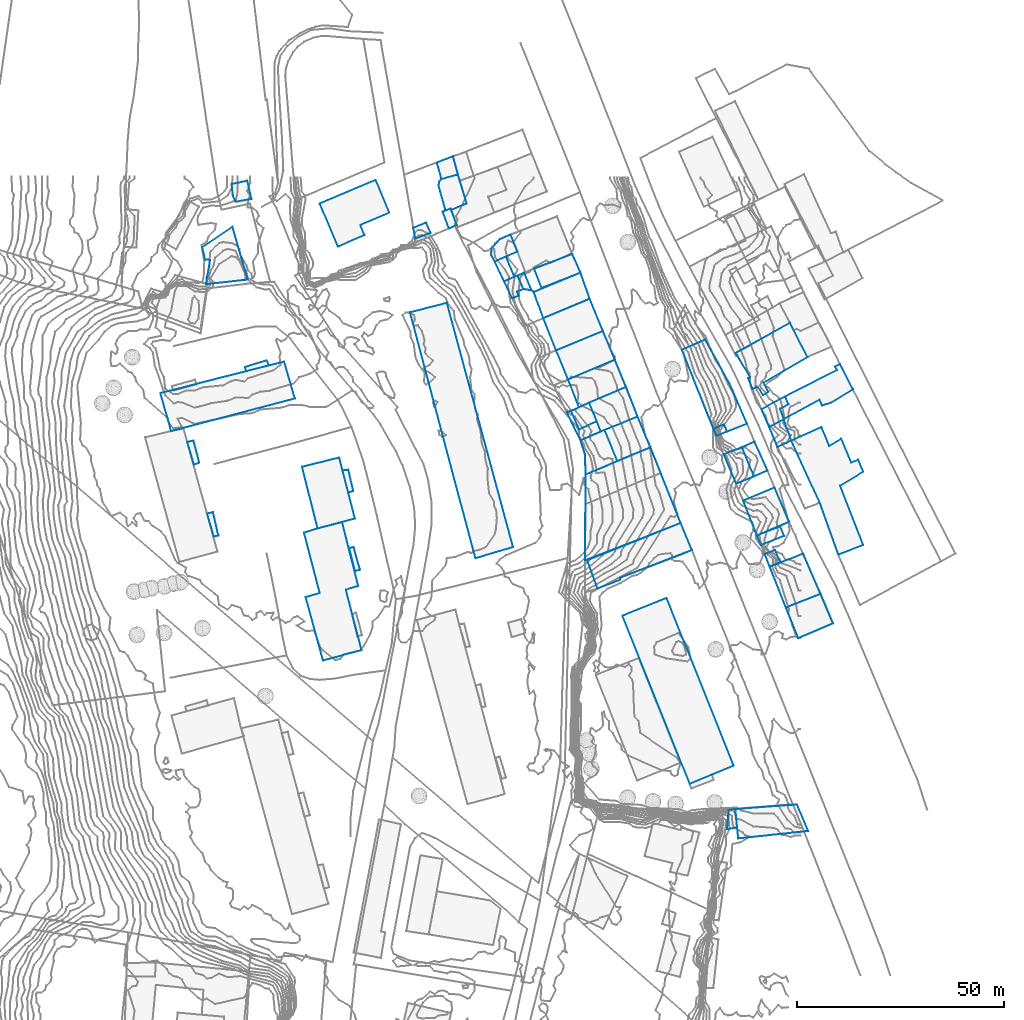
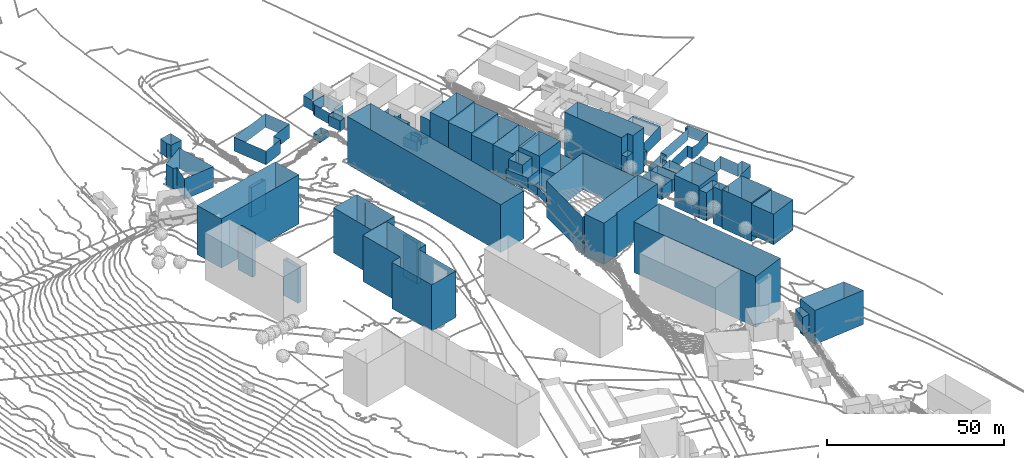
# Not in any storey, part 69 of 419: 49 walls.
"""IFC2X3 model written with IfcOpenShell, lengths in metres."""

from ifc_helpers import new_model, si_unit, frame, origin_with_axes, place, context, subcontext, project, faceted_brep, element, save


model = new_model("IFC2X3")

# Units and contexts
model_context = context("Model", 3, precision=1e-05, world=origin_with_axes())
body_context = subcontext(model_context, "Body", "Model", "MODEL_VIEW")
ifc_project = project(units=[si_unit("AREAUNIT", "SQUARE_METRE"), si_unit("LENGTHUNIT", "METRE")], contexts=[model_context])

# Walls
wall_1_placement = place(None, frame((856.5920204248, 946.3976909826, 97.8904017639), z_axis=(0.0, 0.0, 1.0), x_axis=(1.0, 0.0, 0.0)))
element("IfcWall", 1, at=wall_1_placement, Name="Mur 0", context=body_context, shape_type="Brep", body=[
    faceted_brep([(0.0, 0.0, 16.0095982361), (3.3, 1.0, 16.0095982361), (0.0, 0.0, 0.0), (3.3, 1.0, 0.0), (3.8, -14.5999999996, 16.0095982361), (3.8, -14.5999999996, 0.0), (0.4, -15.5999999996, 16.0095982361), (0.4, -15.5999999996, 0.0), (4.6, -30.9000000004, 16.0095982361), (4.6, -30.9000000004, 0.0), (13.9, -28.4000000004, 16.0095982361), (13.9, -28.4000000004, 0.0), (10.1, -13.7999999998, 16.0095982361), (10.1, -13.7999999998, 0.0), (13.1, -12.9000000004, 16.0095982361), (13.1, -12.9000000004, 0.0), (9.2, 2.5, 16.0095982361), (9.2, 2.5, 0.0)], [[[0, 1, 2]], [[2, 1, 3]], [[4, 0, 5]], [[5, 0, 2]], [[6, 4, 7]], [[7, 4, 5]], [[8, 6, 9]], [[9, 6, 7]], [[10, 8, 11]], [[11, 8, 9]], [[12, 10, 13]], [[13, 10, 11]], [[14, 12, 15]], [[15, 12, 13]], [[1, 16, 3]], [[3, 16, 17]], [[16, 14, 17]], [[17, 14, 15]]]),
])
wall_2_placement = place(None, frame((882.1920204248, 999.5976909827, 97.1549987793), z_axis=(0.0, 0.0, 1.0), x_axis=(1.0, 0.0, 0.0)))
element("IfcWall", 2, at=wall_2_placement, Name="Mur 0", context=body_context, shape_type="Brep", body=[
    faceted_brep([(8.9, 2.2999999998, 16.5450012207), (24.9, -56.7000000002, 16.5450012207), (8.9, 2.2999999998, 0.0), (24.9, -56.7000000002, 0.0), (0.0, 0.0, 16.5450012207), (0.0, 0.0, 0.0), (15.8, -59.4000000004, 16.5450012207), (15.8, -59.4000000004, 0.0)], [[[0, 1, 2]], [[2, 1, 3]], [[4, 0, 5]], [[5, 0, 2]], [[1, 6, 3]], [[3, 6, 7]], [[6, 4, 7]], [[7, 4, 5]]]),
])
wall_3_placement = place(None, frame((962.6920204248, 954.0976909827, 81.8764016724), z_axis=(0.0, 0.0, 1.0), x_axis=(1.0, 0.0, 0.0)))
element("IfcWall", 3, at=wall_3_placement, Name="Mur 0", context=body_context, shape_type="Brep", body=[
    faceted_brep([(0.0, 0.0, 11.0235983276), (7.6, 3.2000000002, 11.0235983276), (0.0, 0.0, 0.0), (7.6, 3.2000000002, 0.0), (3.3, -8.4000000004, 11.0235983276), (3.3, -8.4000000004, 0.0), (11.1, -5.1000000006, 11.0235983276), (11.1, -5.1000000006, 0.0)], [[[0, 1, 2]], [[2, 1, 3]], [[4, 0, 5]], [[5, 0, 2]], [[1, 6, 3]], [[3, 6, 7]], [[6, 4, 7]], [[7, 4, 5]]]),
])
wall_4_placement = place(None, frame((974.2920204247, 968.5976909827, 77.5850028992), z_axis=(0.0, 0.0, 1.0), x_axis=(1.0, 0.0, 0.0)))
element("IfcWall", 4, at=wall_4_placement, Name="Mur 0", context=body_context, shape_type="Brep", body=[
    faceted_brep([(11.8, -10.9000000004, 4.4149971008), (17.4, -25.2000000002, 4.4149971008), (11.8, -10.9000000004, 0.0), (17.4, -25.2000000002, 0.0), (17.4, -7.5, 4.4149971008), (17.4, -7.5, 0.0), (16.2000000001, -4.6000000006, 4.4149971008), (16.2000000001, -4.6000000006, 0.0), (14.5, -5.2999999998, 4.4149971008), (14.5, -5.2999999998, 0.0), (12.1000000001, 0.5, 4.4149971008), (12.1000000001, 0.5, 0.0), (9.2000000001, -1.2999999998, 4.4149971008), (9.2000000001, -1.2999999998, 0.0), (7.3, 3.2999999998, 4.4149971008), (7.3, 3.2999999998, 0.0), (0.0, 0.0, 4.4149971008), (0.0, 0.0, 0.0), (6.9, -15.0, 4.4149971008), (6.9, -15.0, 0.0), (11.4, -27.5, 4.4149971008), (11.4, -27.5, 0.0)], [[[0, 1, 2]], [[2, 1, 3]], [[4, 0, 5]], [[5, 0, 2]], [[6, 4, 7]], [[7, 4, 5]], [[8, 6, 9]], [[9, 6, 7]], [[10, 8, 11]], [[11, 8, 9]], [[12, 10, 13]], [[13, 10, 11]], [[14, 12, 15]], [[15, 12, 13]], [[16, 14, 17]], [[17, 14, 15]], [[18, 16, 19]], [[19, 16, 17]], [[1, 20, 3]], [[3, 20, 21]], [[20, 18, 21]], [[21, 18, 19]]]),
])
wall_5_placement = place(None, frame((924.4920204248, 939.6976909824, 87.7650001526), z_axis=(0.0, 0.0, 1.0), x_axis=(1.0, 0.0, 0.0)))
element("IfcWall", 5, at=wall_5_placement, Name="Mur 0", context=body_context, shape_type="Brep", body=[
    faceted_brep([(15.7999999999, 27.2999999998, 12.7349998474), (23.1, 9.0, 12.7349998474), (15.7999999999, 27.2999999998, 0.0), (23.1, 9.0, 0.0), (0.1, 20.7000000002, 12.7349998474), (0.1, 20.7000000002, 0.0), (0.0, 0.0, 12.7349998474), (0.0, 0.0, 0.0)], [[[0, 1, 2]], [[2, 1, 3]], [[4, 0, 5]], [[5, 0, 2]], [[1, 6, 3]], [[3, 6, 7]], [[6, 4, 7]], [[7, 4, 5]]]),
])
wall_6_placement = place(None, frame((912.0920204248, 1004.4976909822, 90.4650001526), z_axis=(0.0, 0.0, 1.0), x_axis=(1.0, 0.0, 0.0)))
element("IfcWall", 6, at=wall_6_placement, Name="Mur 0", context=body_context, shape_type="Brep", body=[
    faceted_brep([(13.5, -1.5999999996, 11.2349998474), (2.3, -6.2999999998, 11.2349998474), (13.5, -1.5999999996, 0.0), (2.3, -6.2999999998, 0.0), (11.3, 4.7000000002, 11.2349998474), (11.3, 4.7000000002, 0.0), (0.0, 0.0, 11.2349998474), (0.0, 0.0, 0.0)], [[[0, 1, 2]], [[2, 1, 3]], [[4, 0, 5]], [[5, 0, 2]], [[1, 6, 3]], [[3, 6, 7]], [[6, 4, 7]], [[7, 4, 5]]]),
])
wall_7_placement = place(None, frame((912.1920204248, 1010.1976909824, 90.6355996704), z_axis=(0.0, 0.0, 1.0), x_axis=(1.0, 0.0, 0.0)))
element("IfcWall", 7, at=wall_7_placement, Name="Mur 0", context=body_context, shape_type="Brep", body=[
    faceted_brep([(9.2000000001, 3.5, 6.3644003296), (11.2000000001, -1.0, 6.3644003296), (9.2000000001, 3.5, 0.0), (11.2000000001, -1.0, 0.0), (0.0, 0.0, 6.3644003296), (0.0, 0.0, 0.0), (1.8, -4.7000000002, 6.3644003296), (1.8, -4.7000000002, 0.0)], [[[0, 1, 2]], [[2, 1, 3]], [[4, 0, 5]], [[5, 0, 2]], [[1, 6, 3]], [[3, 6, 7]], [[6, 4, 7]], [[7, 4, 5]]]),
])
wall_8_placement = place(None, frame((888.6920204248, 1035.7976909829, 93.0879974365), z_axis=(0.0, 0.0, 1.0), x_axis=(1.0, 0.0, 0.0)))
element("IfcWall", 8, at=wall_8_placement, Name="Mur 0", context=body_context, shape_type="Brep", body=[
    faceted_brep([(5.1, -2.9000000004, 3.6120025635), (1.1, -4.0, 3.6120025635), (5.1, -2.9000000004, 0.0), (1.1, -4.0, 0.0), (3.9, 1.5, 3.6120025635), (3.9, 1.5, 0.0), (0.0, 0.0, 3.6120025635), (0.0, 0.0, 0.0)], [[[0, 1, 2]], [[2, 1, 3]], [[4, 0, 5]], [[5, 0, 2]], [[1, 6, 3]], [[3, 6, 7]], [[6, 4, 7]], [[7, 4, 5]]]),
])
wall_9_placement = place(None, frame((889.0920204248, 1030.1976909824, 92.8774974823), z_axis=(0.0, 0.0, 1.0), x_axis=(1.0, 0.0, 0.0)))
element("IfcWall", 9, at=wall_9_placement, Name="Mur 0", context=body_context, shape_type="Brep", body=[
    faceted_brep([(6.8, -4.2999999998, 3.9225025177), (3.1, -5.7999999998, 3.9225025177), (6.8, -4.2999999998, 0.0), (3.1, -5.7999999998, 0.0), (4.7, 2.7000000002, 3.9225025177), (4.7, 2.7000000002, 0.0), (0.7, 1.6000000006, 3.9225025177), (0.7, 1.6000000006, 0.0), (0.2, 1.1000000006, 3.9225025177), (0.2, 1.1000000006, 0.0), (0.0, 0.0, 3.9225025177), (0.0, 0.0, 0.0), (1.7, -6.0, 3.9225025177), (1.7, -6.0, 0.0), (2.9, -5.5, 3.9225025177), (2.9, -5.5, 0.0)], [[[0, 1, 2]], [[2, 1, 3]], [[4, 0, 5]], [[5, 0, 2]], [[6, 4, 7]], [[7, 4, 5]], [[8, 6, 9]], [[9, 6, 7]], [[10, 8, 11]], [[11, 8, 9]], [[12, 10, 13]], [[13, 10, 11]], [[1, 14, 3]], [[3, 14, 15]], [[14, 12, 15]], [[15, 12, 13]]]),
])
wall_10_placement = place(None, frame((865.8920204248, 961.3976909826, 98.3867999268), z_axis=(0.0, 0.0, 1.0), x_axis=(1.0, 0.0, 0.0)))
element("IfcWall", 10, at=wall_10_placement, Name="Mur 0", context=body_context, shape_type="Brep", body=[
    faceted_brep([(1.3999999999, -5.2999999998, 14.3132000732), (0.0, 0.0, 14.3132000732), (1.3999999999, -5.2999999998, 0.0), (0.0, 0.0, 0.0), (2.6, -5.0, 14.3132000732), (2.6, -5.0, 0.0), (1.3999999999, 0.2000000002, 14.3132000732), (1.3999999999, 0.2000000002, 0.0)], [[[0, 1, 2]], [[2, 1, 3]], [[4, 0, 5]], [[5, 0, 2]], [[1, 6, 3]], [[3, 6, 7]], [[6, 4, 7]], [[7, 4, 5]]]),
])
wall_11_placement = place(None, frame((867.4920204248, 942.6976909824, 98.3299980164), z_axis=(0.0, 0.0, 1.0), x_axis=(1.0, 0.0, 0.0)))
element("IfcWall", 11, at=wall_11_placement, Name="Mur 0", context=body_context, shape_type="Brep", body=[
    faceted_brep([(1.4, -5.5999999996, 14.1700019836), (0.0, 0.0, 14.1700019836), (1.4, -5.5999999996, 0.0), (0.0, 0.0, 0.0), (2.6, -5.2999999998, 14.1700019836), (2.6, -5.2999999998, 0.0), (1.1, 0.2000000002, 14.1700019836), (1.1, 0.2000000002, 0.0)], [[[0, 1, 2]], [[2, 1, 3]], [[4, 0, 5]], [[5, 0, 2]], [[1, 6, 3]], [[3, 6, 7]], [[6, 4, 7]], [[7, 4, 5]]]),
])
wall_12_placement = place(None, frame((957.9920204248, 965.2976909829, 82.3867994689), z_axis=(0.0, 0.0, 1.0), x_axis=(1.0, 0.0, 0.0)))
element("IfcWall", 12, at=wall_12_placement, Name="Mur 0", context=body_context, shape_type="Brep", body=[
    faceted_brep([(0.0, 0.0, 4.4132005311), (4.4, 1.6999999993, 4.4132005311), (0.0, 0.0, 0.0), (4.4, 1.6999999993, 0.0), (3.0, -7.1000000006, 4.4132005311), (3.0, -7.1000000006, 0.0), (7.2999999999, -5.3000000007, 4.4132005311), (7.2999999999, -5.3000000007, 0.0)], [[[0, 1, 2]], [[2, 1, 3]], [[4, 0, 5]], [[5, 0, 2]], [[1, 6, 3]], [[3, 6, 7]], [[6, 4, 7]], [[7, 4, 5]]]),
])
wall_13_placement = place(None, frame((914.3920204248, 998.1976909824, 90.1960023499), z_axis=(0.0, 0.0, 1.0), x_axis=(1.0, 0.0, 0.0)))
element("IfcWall", 13, at=wall_13_placement, Name="Mur 0", context=body_context, shape_type="Brep", body=[
    faceted_brep([(14.3999999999, -3.0999999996, 11.0039976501), (3.1, -7.7999999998, 11.0039976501), (14.3999999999, -3.0999999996, 0.0), (3.1, -7.7999999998, 0.0), (11.2, 4.7000000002, 11.0039976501), (11.2, 4.7000000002, 0.0), (0.0, 0.0, 11.0039976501), (0.0, 0.0, 0.0)], [[[0, 1, 2]], [[2, 1, 3]], [[4, 0, 5]], [[5, 0, 2]], [[1, 6, 3]], [[3, 6, 7]], [[6, 4, 7]], [[7, 4, 5]]]),
])
wall_14_placement = place(None, frame((972.9920204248, 928.2976909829, 84.2059982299), z_axis=(0.0, 0.0, 1.0), x_axis=(1.0, 0.0, 0.0)))
element("IfcWall", 14, at=wall_14_placement, Name="Mur 0", context=body_context, shape_type="Brep", body=[
    faceted_brep([(0.0, 0.0, 10.5940017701), (8.4, 3.2999999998, 10.5940017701), (0.0, 0.0, 0.0), (8.4, 3.2999999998, 0.0), (3.0, -7.4000000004, 10.5940017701), (3.0, -7.4000000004, 0.0), (11.4, -3.8000000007, 10.5940017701), (11.4, -3.8000000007, 0.0)], [[[0, 1, 2]], [[2, 1, 3]], [[4, 0, 5]], [[5, 0, 2]], [[1, 6, 3]], [[3, 6, 7]], [[6, 4, 7]], [[7, 4, 5]]]),
])
wall_15_placement = place(None, frame((882.9920204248, 1019.9976909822, 93.1930023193), z_axis=(0.0, 0.0, 1.0), x_axis=(1.0, 0.0, 0.0)))
element("IfcWall", 15, at=wall_15_placement, Name="Mur 0", context=body_context, shape_type="Brep", body=[
    faceted_brep([(4.2, -1.1999999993, 2.2069976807), (0.5, -2.5999999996, 2.2069976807), (4.2, -1.1999999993, 0.0), (0.5, -2.5999999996, 0.0), (3.1, 1.3000000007, 2.2069976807), (3.1, 1.3000000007, 0.0), (0.0, 0.0, 2.2069976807), (0.0, 0.0, 0.0)], [[[0, 1, 2]], [[2, 1, 3]], [[4, 0, 5]], [[5, 0, 2]], [[1, 6, 3]], [[3, 6, 7]], [[6, 4, 7]], [[7, 4, 5]]]),
])
wall_16_placement = place(None, frame((921.0920204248, 975.7976909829, 91.6154002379), z_axis=(0.0, 0.0, 1.0), x_axis=(1.0, 0.0, 0.0)))
element("IfcWall", 16, at=wall_16_placement, Name="Mur 0", context=body_context, shape_type="Brep", body=[
    faceted_brep([(4.4, 2.0, 8.0845997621), (6.2, -2.5, 8.0845997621), (4.4, 2.0, 0.0), (6.2, -2.5, 0.0), (0.0, 0.0, 8.0845997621), (0.0, 0.0, 0.0), (2.0, -4.5, 8.0845997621), (2.0, -4.5, 0.0)], [[[0, 1, 2]], [[2, 1, 3]], [[4, 0, 5]], [[5, 0, 2]], [[1, 6, 3]], [[3, 6, 7]], [[6, 4, 7]], [[7, 4, 5]]]),
])
wall_17_placement = place(None, frame((908.1920204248, 1008.4976909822, 90.8799972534), z_axis=(0.0, 0.0, 1.0), x_axis=(1.0, 0.0, 0.0)))
element("IfcWall", 17, at=wall_17_placement, Name="Mur 0", context=body_context, shape_type="Brep", body=[
    faceted_brep([(3.4, -3.5999999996, 2.1200027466), (1.4, -3.2999999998, 2.1200027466), (3.4, -3.5999999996, 0.0), (1.4, -3.2999999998, 0.0), (1.6, 0.7000000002, 2.1200027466), (1.6, 0.7000000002, 0.0), (0.0, 0.0, 2.1200027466), (0.0, 0.0, 0.0)], [[[0, 1, 2]], [[2, 1, 3]], [[4, 0, 5]], [[5, 0, 2]], [[1, 6, 3]], [[3, 6, 7]], [[6, 4, 7]], [[7, 4, 5]]]),
])
wall_18_placement = place(None, frame((960.8920204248, 989.7976909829, 78.5979980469), z_axis=(0.0, 0.0, 1.0), x_axis=(1.0, 0.0, 0.0)))
element("IfcWall", 18, at=wall_18_placement, Name="Mur 0", context=body_context, shape_type="Brep", body=[
    faceted_brep([(13.1, 7.2999999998, 4.7020019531), (17.2999999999, -1.0, 4.7020019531), (13.1, 7.2999999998, 0.0), (17.2999999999, -1.0, 0.0), (0.0, 0.0, 4.7020019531), (0.0, 0.0, 0.0), (3.5, -5.9000000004, 4.7020019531), (3.5, -5.9000000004, 0.0), (3.0, -6.1000000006, 4.7020019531), (3.0, -6.1000000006, 0.0), (4.1, -8.7000000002, 4.7020019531), (4.1, -8.7000000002, 0.0), (5.2999999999, -8.1000000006, 4.7020019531), (5.2999999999, -8.1000000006, 0.0), (6.6, -10.2000000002, 4.7020019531), (6.6, -10.2000000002, 0.0), (7.8999999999, -9.4000000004, 4.7020019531), (7.8999999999, -9.4000000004, 0.0), (6.7, -7.2000000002, 4.7020019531), (6.7, -7.2000000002, 0.0)], [[[0, 1, 2]], [[2, 1, 3]], [[4, 0, 5]], [[5, 0, 2]], [[6, 4, 7]], [[7, 4, 5]], [[8, 6, 9]], [[9, 6, 7]], [[10, 8, 11]], [[11, 8, 9]], [[12, 10, 13]], [[13, 10, 11]], [[14, 12, 15]], [[15, 12, 13]], [[16, 14, 17]], [[17, 14, 15]], [[1, 18, 3]], [[3, 18, 19]], [[18, 16, 19]], [[19, 16, 17]]]),
])
wall_19_placement = place(None, frame((924.9920204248, 939.6976909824, 87.0495999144), z_axis=(0.0, 0.0, 1.0), x_axis=(1.0, 0.0, 0.0)))
element("IfcWall", 19, at=wall_19_placement, Name="Mur 0", context=body_context, shape_type="Brep", body=[
    faceted_brep([(22.6, 9.0, 14.3504000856), (25.2999999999, 2.5, 14.3504000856), (22.6, 9.0, 0.0), (25.2999999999, 2.5, 0.0), (0.0, 0.0, 14.3504000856), (0.0, 0.0, 0.0), (2.5, -6.7999999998, 14.3504000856), (2.5, -6.7999999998, 0.0), (8.0, -4.7000000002, 14.3504000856), (8.0, -4.7000000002, 0.0), (8.0, -4.2000000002, 14.3504000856), (8.0, -4.2000000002, 0.0)], [[[0, 1, 2]], [[2, 1, 3]], [[4, 0, 5]], [[5, 0, 2]], [[6, 4, 7]], [[7, 4, 5]], [[8, 6, 9]], [[9, 6, 7]], [[1, 10, 3]], [[3, 10, 11]], [[10, 8, 11]], [[11, 8, 9]]]),
])
wall_20_placement = place(None, frame((967.8920204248, 941.1976909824, 82.0823989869), z_axis=(0.0, 0.0, 1.0), x_axis=(1.0, 0.0, 0.0)))
element("IfcWall", 20, at=wall_20_placement, Name="Mur 0", context=body_context, shape_type="Brep", body=[
    faceted_brep([(2.5, 1.0, 12.8176010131), (3.7999999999, -2.0999999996, 12.8176010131), (2.5, 1.0, 0.0), (3.7999999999, -2.0999999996, 0.0), (0.0, 0.0, 12.8176010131), (0.0, 0.0, 0.0), (1.2, -3.0, 12.8176010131), (1.2, -3.0, 0.0)], [[[0, 1, 2]], [[2, 1, 3]], [[4, 0, 5]], [[5, 0, 2]], [[1, 6, 3]], [[3, 6, 7]], [[6, 4, 7]], [[7, 4, 5]]]),
])
wall_21_placement = place(None, frame((967.0920204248, 976.1976909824, 78.0299987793), z_axis=(0.0, 0.0, 1.0), x_axis=(1.0, 0.0, 0.0)))
element("IfcWall", 21, at=wall_21_placement, Name="Mur 0", context=body_context, shape_type="Brep", body=[
    faceted_brep([(4.5, 0.1000000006, 2.9700012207), (5.4, -2.3999999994, 2.9700012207), (4.5, 0.1000000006, 0.0), (5.4, -2.3999999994, 0.0), (6.5, 1.2000000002, 2.9700012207), (6.5, 1.2000000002, 0.0), (5.7, 3.1000000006, 2.9700012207), (5.7, 3.1000000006, 0.0), (0.0, 0.0, 2.9700012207), (0.0, 0.0, 0.0), (1.9, -4.2999999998, 2.9700012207), (1.9, -4.2999999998, 0.0)], [[[0, 1, 2]], [[2, 1, 3]], [[4, 0, 5]], [[5, 0, 2]], [[6, 4, 7]], [[7, 4, 5]], [[8, 6, 9]], [[9, 6, 7]], [[1, 10, 3]], [[3, 10, 11]], [[10, 8, 11]], [[11, 8, 9]]]),
])
wall_22_placement = place(None, frame((833.1920204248, 950.9976909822, 98.5739990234), z_axis=(0.0, 0.0, 1.0), x_axis=(1.0, 0.0, 0.0)))
element("IfcWall", 22, at=wall_22_placement, Name="Mur 0", context=body_context, shape_type="Brep", body=[
    faceted_brep([(2.7000000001, -5.2999999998, 12.4260009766), (1.6, -5.5999999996, 12.4260009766), (2.7000000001, -5.2999999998, 0.0), (1.6, -5.5999999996, 0.0), (1.4, 0.3000000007, 12.4260009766), (1.4, 0.3000000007, 0.0), (0.0, 0.0, 12.4260009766), (0.0, 0.0, 0.0)], [[[0, 1, 2]], [[2, 1, 3]], [[4, 0, 5]], [[5, 0, 2]], [[1, 6, 3]], [[3, 6, 7]], [[6, 4, 7]], [[7, 4, 5]]]),
])
wall_23_placement = place(None, frame((965.9920204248, 945.6976909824, 81.9380035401), z_axis=(0.0, 0.0, 1.0), x_axis=(1.0, 0.0, 0.0)))
element("IfcWall", 23, at=wall_23_placement, Name="Mur 0", context=body_context, shape_type="Brep", body=[
    faceted_brep([(1.0, -2.2999999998, 9.7619964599), (0.0, 0.0, 9.7619964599), (1.0, -2.2999999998, 0.0), (0.0, 0.0, 0.0), (6.6, -0.0999999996, 9.7619964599), (6.6, -0.0999999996, 0.0), (5.6, 2.2000000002, 9.7619964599), (5.6, 2.2000000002, 0.0)], [[[0, 1, 2]], [[2, 1, 3]], [[4, 0, 5]], [[5, 0, 2]], [[1, 6, 3]], [[3, 6, 7]], [[6, 4, 7]], [[7, 4, 5]]]),
])
wall_24_placement = place(None, frame((920.0920204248, 975.4976909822, 92.5652994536), z_axis=(0.0, 0.0, 1.0), x_axis=(1.0, 0.0, 0.0)))
element("IfcWall", 24, at=wall_24_placement, Name="Mur 0", context=body_context, shape_type="Brep", body=[
    faceted_brep([(8.2, -4.6999999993, 4.1347005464), (3.3, -6.7999999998, 4.1347005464), (8.2, -4.6999999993, 0.0), (3.3, -6.7999999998, 0.0), (7.2, -2.1999999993, 4.1347005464), (7.2, -2.1999999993, 0.0), (3.0, -4.1999999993, 4.1347005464), (3.0, -4.1999999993, 0.0), (1.0, 0.3000000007, 4.1347005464), (1.0, 0.3000000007, 0.0), (0.0, 0.0, 4.1347005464), (0.0, 0.0, 0.0)], [[[0, 1, 2]], [[2, 1, 3]], [[4, 0, 5]], [[5, 0, 2]], [[6, 4, 7]], [[7, 4, 5]], [[8, 6, 9]], [[9, 6, 7]], [[1, 10, 3]], [[3, 10, 11]], [[10, 8, 11]], [[11, 8, 9]]]),
])
wall_25_placement = place(None, frame((955.4920204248, 971.4976909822, 82.5692007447), z_axis=(0.0, 0.0, 1.0), x_axis=(1.0, 0.0, 0.0)))
element("IfcWall", 25, at=wall_25_placement, Name="Mur 0", context=body_context, shape_type="Brep", body=[
    faceted_brep([(0.7999999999, -1.6999999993, 9.2307992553), (0.0, 0.0, 9.2307992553), (0.7999999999, -1.6999999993, 0.0), (0.0, 0.0, 0.0), (3.2999999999, -0.6999999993, 9.2307992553), (3.2999999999, -0.6999999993, 0.0), (2.6, 1.0, 9.2307992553), (2.6, 1.0, 0.0)], [[[0, 1, 2]], [[2, 1, 3]], [[4, 0, 5]], [[5, 0, 2]], [[1, 6, 3]], [[3, 6, 7]], [[6, 4, 7]], [[7, 4, 5]]]),
])
wall_26_placement = place(None, frame((901.7920204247, 1013.4976909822, 91.6666029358), z_axis=(0.0, 0.0, 1.0), x_axis=(1.0, 0.0, 0.0)))
element("IfcWall", 26, at=wall_26_placement, Name="Mur 0", context=body_context, shape_type="Brep", body=[
    faceted_brep([(6.4, 0.8000000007, 4.8333970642), (0.9, -1.5999999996, 4.8333970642), (6.4, 0.8000000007, 0.0), (0.9, -1.5999999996, 0.0), (4.7000000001, 4.9000000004, 4.8333970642), (4.7000000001, 4.9000000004, 0.0), (2.1000000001, 3.8000000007, 4.8333970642), (2.1000000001, 3.8000000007, 0.0), (0.1000000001, 1.5, 4.8333970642), (0.1000000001, 1.5, 0.0), (0.0, 0.0, 4.8333970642), (0.0, 0.0, 0.0)], [[[0, 1, 2]], [[2, 1, 3]], [[4, 0, 5]], [[5, 0, 2]], [[6, 4, 7]], [[7, 4, 5]], [[8, 6, 9]], [[9, 6, 7]], [[1, 10, 3]], [[3, 10, 11]], [[10, 8, 11]], [[11, 8, 9]]]),
])
wall_27_placement = place(None, frame((968.9920204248, 971.8976909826, 78.5275988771), z_axis=(0.0, 0.0, 1.0), x_axis=(1.0, 0.0, 0.0)))
element("IfcWall", 27, at=wall_27_placement, Name="Mur 0", context=body_context, shape_type="Brep", body=[
    faceted_brep([(0.0, 0.0, 4.1724011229), (3.5, 1.9000000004, 4.1724011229), (0.0, 0.0, 0.0), (3.5, 1.9000000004, 0.0), (2.0, -4.7999999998, 4.1724011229), (2.0, -4.7999999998, 0.0), (5.2999999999, -3.2999999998, 4.1724011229), (5.2999999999, -3.2999999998, 0.0)], [[[0, 1, 2]], [[2, 1, 3]], [[4, 0, 5]], [[5, 0, 2]], [[1, 6, 3]], [[3, 6, 7]], [[6, 4, 7]], [[7, 4, 5]]]),
])
wall_28_placement = place(None, frame((904.8920204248, 1007.0976909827, 90.8559997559), z_axis=(0.0, 0.0, 1.0), x_axis=(1.0, 0.0, 0.0)))
element("IfcWall", 28, at=wall_28_placement, Name="Mur 0", context=body_context, shape_type="Brep", body=[
    faceted_brep([(3.5, -3.5, 3.1440002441), (2.0, -4.1000000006, 3.1440002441), (3.5, -3.5, 0.0), (2.0, -4.1000000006, 0.0), (3.2, -2.5, 3.1440002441), (3.2, -2.5, 0.0), (4.7, -1.9000000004, 3.1440002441), (4.7, -1.9000000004, 0.0), (3.2999999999, 1.3999999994, 3.1440002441), (3.2999999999, 1.3999999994, 0.0), (0.0, 0.0, 3.1440002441), (0.0, 0.0, 0.0)], [[[0, 1, 2]], [[2, 1, 3]], [[4, 0, 5]], [[5, 0, 2]], [[6, 4, 7]], [[7, 4, 5]], [[8, 6, 9]], [[9, 6, 7]], [[1, 10, 3]], [[3, 10, 11]], [[10, 8, 11]], [[11, 8, 9]]]),
])
wall_29_placement = place(None, frame((962.3920204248, 966.9976909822, 82.1699981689), z_axis=(0.0, 0.0, 1.0), x_axis=(1.0, 0.0, 0.0)))
element("IfcWall", 29, at=wall_29_placement, Name="Mur 0", context=body_context, shape_type="Brep", body=[
    faceted_brep([(0.0, 0.0, 4.3300018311), (3.0, 1.4000000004, 4.3300018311), (0.0, 0.0, 0.0), (3.0, 1.4000000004, 0.0), (2.8999999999, -7.0, 4.3300018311), (2.8999999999, -7.0, 0.0), (6.2, -5.5999999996, 4.3300018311), (6.2, -5.5999999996, 0.0)], [[[0, 1, 2]], [[2, 1, 3]], [[4, 0, 5]], [[5, 0, 2]], [[1, 6, 3]], [[3, 6, 7]], [[6, 4, 7]], [[7, 4, 5]]]),
])
wall_30_placement = place(None, frame((839.0920204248, 1030.5976909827, 97.3080024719), z_axis=(0.0, 0.0, 1.0), x_axis=(1.0, 0.0, 0.0)))
element("IfcWall", 30, at=wall_30_placement, Name="Mur 0", context=body_context, shape_type="Brep", body=[
    faceted_brep([(0.3, -2.7999999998, 4.9919975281), (0.0, 0.0, 4.9919975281), (0.3, -2.7999999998, 0.0), (0.0, 0.0, 0.0), (1.0, -4.2999999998, 4.9919975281), (1.0, -4.2999999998, 0.0), (4.8, -3.6000000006, 4.9919975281), (4.8, -3.6000000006, 0.0), (3.8, 0.7999999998, 4.9919975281), (3.8, 0.7999999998, 0.0)], [[[0, 1, 2]], [[2, 1, 3]], [[4, 0, 5]], [[5, 0, 2]], [[6, 4, 7]], [[7, 4, 5]], [[1, 8, 3]], [[3, 8, 9]], [[8, 6, 9]], [[9, 6, 7]]]),
])
wall_31_placement = place(None, frame((933.4920204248, 926.2976909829, 86.2701992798), z_axis=(0.0, 0.0, 1.0), x_axis=(1.0, 0.0, 0.0)))
element("IfcWall", 31, at=wall_31_placement, Name="Mur 0", context=body_context, shape_type="Brep", body=[
    faceted_brep([(26.9, -36.2000000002, 17.5298007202), (16.2999999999, -40.6000000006, 17.5298007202), (26.9, -36.2000000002, 0.0), (16.2999999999, -40.6000000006, 0.0), (10.7, 4.2999999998, 17.5298007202), (10.7, 4.2999999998, 0.0), (0.0, 0.0, 17.5298007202), (0.0, 0.0, 0.0)], [[[0, 1, 2]], [[2, 1, 3]], [[4, 0, 5]], [[5, 0, 2]], [[1, 6, 3]], [[3, 6, 7]], [[6, 4, 7]], [[7, 4, 5]]]),
])
wall_32_placement = place(None, frame((923.3920204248, 968.6976909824, 92.3469001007), z_axis=(0.0, 0.0, 1.0), x_axis=(1.0, 0.0, 0.0)))
element("IfcWall", 32, at=wall_32_placement, Name="Mur 0", context=body_context, shape_type="Brep", body=[
    faceted_brep([(8.8999999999, -5.0, 2.8530998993), (1.2, -8.2999999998, 2.8530998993), (8.8999999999, -5.0, 0.0), (1.2, -8.2999999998, 0.0), (5.7999999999, 2.5, 2.8530998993), (5.7999999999, 2.5, 0.0), (0.0, 0.0, 2.8530998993), (0.0, 0.0, 0.0), (1.1, -3.3999999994, 2.8530998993), (1.1, -3.3999999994, 0.0)], [[[0, 1, 2]], [[2, 1, 3]], [[4, 0, 5]], [[5, 0, 2]], [[6, 4, 7]], [[7, 4, 5]], [[1, 8, 3]], [[3, 8, 9]], [[8, 6, 9]], [[9, 6, 7]]]),
])
wall_33_placement = place(None, frame((890.0920204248, 1023.8976909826, 92.97780159), z_axis=(0.0, 0.0, 1.0), x_axis=(1.0, 0.0, 0.0)))
element("IfcWall", 33, at=wall_33_placement, Name="Mur 0", context=body_context, shape_type="Brep", body=[
    faceted_brep([(1.9, 0.7999999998, 3.52219841), (3.4, -3.2000000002, 3.52219841), (1.9, 0.7999999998, 0.0), (3.4, -3.2000000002, 0.0), (0.0, 0.0, 3.52219841), (0.0, 0.0, 0.0), (1.5, -4.0, 3.52219841), (1.5, -4.0, 0.0)], [[[0, 1, 2]], [[2, 1, 3]], [[4, 0, 5]], [[5, 0, 2]], [[1, 6, 3]], [[3, 6, 7]], [[6, 4, 7]], [[7, 4, 5]]]),
])
wall_34_placement = place(None, frame((828.3920204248, 968.2976909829, 98.6175973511), z_axis=(0.0, 0.0, 1.0), x_axis=(1.0, 0.0, 0.0)))
element("IfcWall", 34, at=wall_34_placement, Name="Mur 0", context=body_context, shape_type="Brep", body=[
    faceted_brep([(1.6, -5.5, 14.5824026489), (0.0, 0.0, 14.5824026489), (1.6, -5.5, 0.0), (0.0, 0.0, 0.0), (2.8999999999, -5.0, 14.5824026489), (2.8999999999, -5.0, 0.0), (1.5, 0.2999999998, 14.5824026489), (1.5, 0.2999999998, 0.0)], [[[0, 1, 2]], [[2, 1, 3]], [[4, 0, 5]], [[5, 0, 2]], [[1, 6, 3]], [[3, 6, 7]], [[6, 4, 7]], [[7, 4, 5]]]),
])
wall_35_placement = place(None, frame((821.8920204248, 980.0976909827, 98.9060024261), z_axis=(0.0, 0.0, 1.0), x_axis=(1.0, 0.0, 0.0)))
element("IfcWall", 35, at=wall_35_placement, Name="Mur 0", context=body_context, shape_type="Brep", body=[
    faceted_brep([(32.5, -1.2999999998, 16.9939975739), (2.6, -9.2000000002, 16.9939975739), (32.5, -1.2999999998, 0.0), (2.6, -9.2000000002, 0.0), (29.8999999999, 7.5999999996, 16.9939975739), (29.8999999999, 7.5999999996, 0.0), (0.0, 0.0, 16.9939975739), (0.0, 0.0, 0.0)], [[[0, 1, 2]], [[2, 1, 3]], [[4, 0, 5]], [[5, 0, 2]], [[1, 6, 3]], [[3, 6, 7]], [[6, 4, 7]], [[7, 4, 5]]]),
])
wall_36_placement = place(None, frame((929.1920204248, 971.1976909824, 88.7488006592), z_axis=(0.0, 0.0, 1.0), x_axis=(1.0, 0.0, 0.0)))
element("IfcWall", 36, at=wall_36_placement, Name="Mur 0", context=body_context, shape_type="Brep", body=[
    faceted_brep([(11.1, -4.2000000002, 8.0511993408), (3.1, -7.5, 8.0511993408), (11.1, -4.2000000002, 0.0), (3.1, -7.5, 0.0), (8.0, 3.2000000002, 8.0511993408), (8.0, 3.2000000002, 0.0), (0.0, 0.0, 8.0511993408), (0.0, 0.0, 0.0)], [[[0, 1, 2]], [[2, 1, 3]], [[4, 0, 5]], [[5, 0, 2]], [[1, 6, 3]], [[3, 6, 7]], [[6, 4, 7]], [[7, 4, 5]]]),
])
wall_37_placement = place(None, frame((920.3920204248, 983.3976909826, 89.4335995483), z_axis=(0.0, 0.0, 1.0), x_axis=(1.0, 0.0, 0.0)))
element("IfcWall", 37, at=wall_37_placement, Name="Mur 0", context=body_context, shape_type="Brep", body=[
    faceted_brep([(14.0, -1.7999999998, 10.9664004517), (2.6, -6.7000000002, 10.9664004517), (14.0, -1.7999999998, 0.0), (2.6, -6.7000000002, 0.0), (11.2999999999, 4.7999999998, 10.9664004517), (11.2999999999, 4.7999999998, 0.0), (0.0, 0.0, 10.9664004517), (0.0, 0.0, 0.0)], [[[0, 1, 2]], [[2, 1, 3]], [[4, 0, 5]], [[5, 0, 2]], [[1, 6, 3]], [[3, 6, 7]], [[6, 4, 7]], [[7, 4, 5]]]),
])
wall_38_placement = place(None, frame((958.7920204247, 874.6976909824, 87.3464007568), z_axis=(0.0, 0.0, 1.0), x_axis=(1.0, 0.0, 0.0)))
element("IfcWall", 38, at=wall_38_placement, Name="Mur 0", context=body_context, shape_type="Brep", body=[
    faceted_brep([(0.4, 4.7000000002, 5.8535992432), (2.0, 4.9000000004, 5.8535992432), (0.4, 4.7000000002, 0.0), (2.0, 4.9000000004, 0.0), (0.0, 0.0, 5.8535992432), (0.0, 0.0, 0.0), (2.4, 0.5, 5.8535992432), (2.4, 0.5, 0.0)], [[[0, 1, 2]], [[2, 1, 3]], [[4, 0, 5]], [[5, 0, 2]], [[1, 6, 3]], [[3, 6, 7]], [[6, 4, 7]], [[7, 4, 5]]]),
])
wall_39_placement = place(None, frame((971.5920204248, 976.2976909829, 77.8119995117), z_axis=(0.0, 0.0, 1.0), x_axis=(1.0, 0.0, 0.0)))
element("IfcWall", 39, at=wall_39_placement, Name="Mur 0", context=body_context, shape_type="Brep", body=[
    faceted_brep([(14.5, 10.7999999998, 3.9880004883), (17.6, 4.6999999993, 3.9880004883), (14.5, 10.7999999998, 0.0), (17.6, 4.6999999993, 0.0), (13.3, 10.1999999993, 3.9880004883), (13.3, 10.1999999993, 0.0), (13.8, 9.3999999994, 3.9880004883), (13.8, 9.3999999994, 0.0), (1.2, 3.0, 3.9880004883), (1.2, 3.0, 0.0), (2.0, 1.0999999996, 3.9880004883), (2.0, 1.0999999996, 0.0), (0.0, 0.0, 3.9880004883), (0.0, 0.0, 0.0), (0.9, -2.5, 3.9880004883), (0.9, -2.5, 0.0), (9.5, 2.1999999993, 3.9880004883), (9.5, 2.1999999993, 0.0), (10.2, 0.7999999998, 3.9880004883), (10.2, 0.7999999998, 0.0), (12.3, 1.5, 3.9880004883), (12.3, 1.5, 0.0)], [[[0, 1, 2]], [[2, 1, 3]], [[4, 0, 5]], [[5, 0, 2]], [[6, 4, 7]], [[7, 4, 5]], [[8, 6, 9]], [[9, 6, 7]], [[10, 8, 11]], [[11, 8, 9]], [[12, 10, 13]], [[13, 10, 11]], [[14, 12, 15]], [[15, 12, 13]], [[16, 14, 17]], [[17, 14, 15]], [[18, 16, 19]], [[19, 16, 17]], [[1, 20, 3]], [[3, 20, 21]], [[20, 18, 21]], [[21, 18, 19]]]),
])
wall_40_placement = place(None, frame((856.0920204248, 962.2976909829, 98.3881991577), z_axis=(0.0, 0.0, 1.0), x_axis=(1.0, 0.0, 0.0)))
element("IfcWall", 40, at=wall_40_placement, Name="Mur 0", context=body_context, shape_type="Brep", body=[
    faceted_brep([(12.8, -12.5, 15.6118008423), (3.8, -14.9000000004, 15.6118008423), (12.8, -12.5, 0.0), (3.8, -14.9000000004, 0.0), (9.0, 2.1999999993, 15.6118008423), (9.0, 2.1999999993, 0.0), (0.0, 0.0, 15.6118008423), (0.0, 0.0, 0.0)], [[[0, 1, 2]], [[2, 1, 3]], [[4, 0, 5]], [[5, 0, 2]], [[1, 6, 3]], [[3, 6, 7]], [[6, 4, 7]], [[7, 4, 5]]]),
])
wall_41_placement = place(None, frame((842.2920204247, 986.3976909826, 101.1699996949), z_axis=(0.0, 0.0, 1.0), x_axis=(1.0, 0.0, 0.0)))
element("IfcWall", 41, at=wall_41_placement, Name="Mur 0", context=body_context, shape_type="Brep", body=[
    faceted_brep([(5.3, 1.5999999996, 10.3300003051), (5.8, 0.4000000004, 10.3300003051), (5.3, 1.5999999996, 0.0), (5.8, 0.4000000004, 0.0), (0.0, 0.0, 10.3300003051), (0.0, 0.0, 0.0), (0.4, -1.0, 10.3300003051), (0.4, -1.0, 0.0)], [[[0, 1, 2]], [[2, 1, 3]], [[4, 0, 5]], [[5, 0, 2]], [[1, 6, 3]], [[3, 6, 7]], [[6, 4, 7]], [[7, 4, 5]]]),
])
wall_42_placement = place(None, frame((902.6920204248, 1011.8976909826, 91.6327993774), z_axis=(0.0, 0.0, 1.0), x_axis=(1.0, 0.0, 0.0)))
element("IfcWall", 42, at=wall_42_placement, Name="Mur 0", context=body_context, shape_type="Brep", body=[
    faceted_brep([(4.7000000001, -3.7000000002, 6.0672006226), (2.2000000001, -4.7999999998, 6.0672006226), (4.7000000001, -3.7000000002, 0.0), (2.2000000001, -4.7999999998, 0.0), (2.7000000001, 1.2000000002, 6.0672006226), (2.7000000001, 1.2000000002, 0.0), (0.0, 0.0, 6.0672006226), (0.0, 0.0, 0.0)], [[[0, 1, 2]], [[2, 1, 3]], [[4, 0, 5]], [[5, 0, 2]], [[1, 6, 3]], [[3, 6, 7]], [[6, 4, 7]], [[7, 4, 5]]]),
])
wall_43_placement = place(None, frame((947.8920204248, 990.5976909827, 82.4650024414), z_axis=(0.0, 0.0, 1.0), x_axis=(1.0, 0.0, 0.0)))
element("IfcWall", 43, at=wall_43_placement, Name="Mur 0", context=body_context, shape_type="Brep", body=[
    faceted_brep([(7.6, -19.1000000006, 15.2349975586), (0.0, 0.0, 15.2349975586), (7.6, -19.1000000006, 0.0), (0.0, 0.0, 0.0), (10.2, -18.1000000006, 15.2349975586), (10.2, -18.1000000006, 0.0), (10.8999999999, -19.7999999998, 15.2349975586), (10.8999999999, -19.7999999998, 0.0), (15.7, -17.9000000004, 15.2349975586), (15.7, -17.9000000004, 0.0), (11.5, -8.2000000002, 15.2349975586), (11.5, -8.2000000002, 0.0), (5.6, 2.3999999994, 15.2349975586), (5.6, 2.3999999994, 0.0)], [[[0, 1, 2]], [[2, 1, 3]], [[4, 0, 5]], [[5, 0, 2]], [[6, 4, 7]], [[7, 4, 5]], [[8, 6, 9]], [[9, 6, 7]], [[10, 8, 11]], [[11, 8, 9]], [[1, 12, 3]], [[3, 12, 13]], [[12, 10, 13]], [[13, 10, 11]]]),
])
wall_44_placement = place(None, frame((925.4920204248, 977.7976909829, 89.0659988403), z_axis=(0.0, 0.0, 1.0), x_axis=(1.0, 0.0, 0.0)))
element("IfcWall", 44, at=wall_44_placement, Name="Mur 0", context=body_context, shape_type="Brep", body=[
    faceted_brep([(11.7, -3.4000000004, 12.2340011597), (3.7, -6.6000000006, 12.2340011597), (11.7, -3.4000000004, 0.0), (3.7, -6.6000000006, 0.0), (8.9, 3.7999999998, 12.2340011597), (8.9, 3.7999999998, 0.0), (0.0, 0.0, 12.2340011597), (0.0, 0.0, 0.0), (2.7999999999, -7.0, 12.2340011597), (2.7999999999, -7.0, 0.0)], [[[0, 1, 2]], [[2, 1, 3]], [[4, 0, 5]], [[5, 0, 2]], [[6, 4, 7]], [[7, 4, 5]], [[1, 8, 3]], [[3, 8, 9]], [[8, 6, 9]], [[9, 6, 7]]]),
])
wall_45_placement = place(None, frame((917.4920204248, 990.3976909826, 89.7562007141), z_axis=(0.0, 0.0, 1.0), x_axis=(1.0, 0.0, 0.0)))
element("IfcWall", 45, at=wall_45_placement, Name="Mur 0", context=body_context, shape_type="Brep", body=[
    faceted_brep([(14.2, -2.2000000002, 10.7437992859), (2.9, -7.0, 10.7437992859), (14.2, -2.2000000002, 0.0), (2.9, -7.0, 0.0), (11.2999999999, 4.7000000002, 10.7437992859), (11.2999999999, 4.7000000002, 0.0), (0.0, 0.0, 10.7437992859), (0.0, 0.0, 0.0)], [[[0, 1, 2]], [[2, 1, 3]], [[4, 0, 5]], [[5, 0, 2]], [[1, 6, 3]], [[3, 6, 7]], [[6, 4, 7]], [[7, 4, 5]]]),
])
wall_46_placement = place(None, frame((969.0920204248, 938.1976909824, 81.880997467), z_axis=(0.0, 0.0, 1.0), x_axis=(1.0, 0.0, 0.0)))
element("IfcWall", 46, at=wall_46_placement, Name="Mur 0", context=body_context, shape_type="Brep", body=[
    faceted_brep([(0.0, 0.0, 13.419002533), (8.1, 3.1000000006, 13.419002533), (0.0, 0.0, 0.0), (8.1, 3.1000000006, 0.0), (3.9, -9.8999999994, 13.419002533), (3.9, -9.8999999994, 0.0), (12.3, -6.5999999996, 13.419002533), (12.3, -6.5999999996, 0.0)], [[[0, 1, 2]], [[2, 1, 3]], [[4, 0, 5]], [[5, 0, 2]], [[1, 6, 3]], [[3, 6, 7]], [[6, 4, 7]], [[7, 4, 5]]]),
])
wall_47_placement = place(None, frame((831.9920204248, 1015.2976909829, 98.100199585), z_axis=(0.0, 0.0, 1.0), x_axis=(1.0, 0.0, 0.0)))
element("IfcWall", 47, at=wall_47_placement, Name="Mur 0", context=body_context, shape_type="Brep", body=[
    faceted_brep([(7.2999999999, 5.0, 7.199800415), (11.0, -7.8000000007, 7.199800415), (7.2999999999, 5.0, 0.0), (11.0, -7.8000000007, 0.0), (0.0, 0.0, 7.199800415), (0.0, 0.0, 0.0), (0.7, -2.9000000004, 7.199800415), (0.7, -2.9000000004, 0.0), (1.9, -3.1000000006, 7.199800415), (1.9, -3.1000000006, 0.0), (0.9, -8.9000000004, 7.199800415), (0.9, -8.9000000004, 0.0)], [[[0, 1, 2]], [[2, 1, 3]], [[4, 0, 5]], [[5, 0, 2]], [[6, 4, 7]], [[7, 4, 5]], [[8, 6, 9]], [[9, 6, 7]], [[1, 10, 3]], [[3, 10, 11]], [[10, 8, 11]], [[11, 8, 9]]]),
])
wall_48_placement = place(None, frame((860.3920204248, 1025.8976909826, 93.4082012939), z_axis=(0.0, 0.0, 1.0), x_axis=(1.0, 0.0, 0.0)))
element("IfcWall", 48, at=wall_48_placement, Name="Mur 0", context=body_context, shape_type="Brep", body=[
    faceted_brep([(4.3999999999, -10.4000000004, 4.7917987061), (0.0, 0.0, 4.7917987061), (4.3999999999, -10.4000000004, 0.0), (0.0, 0.0, 0.0), (10.7999999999, -7.5999999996, 4.7917987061), (10.7999999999, -7.5999999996, 0.0), (9.7999999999, -5.2000000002, 4.7917987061), (9.7999999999, -5.2000000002, 0.0), (16.7999999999, -2.2000000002, 4.7917987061), (16.7999999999, -2.2000000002, 0.0), (13.5, 5.7000000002, 4.7917987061), (13.5, 5.7000000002, 0.0)], [[[0, 1, 2]], [[2, 1, 3]], [[4, 0, 5]], [[5, 0, 2]], [[6, 4, 7]], [[7, 4, 5]], [[8, 6, 9]], [[9, 6, 7]], [[1, 10, 3]], [[3, 10, 11]], [[10, 8, 11]], [[11, 8, 9]]]),
])
wall_49_placement = place(None, frame((960.7920204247, 879.5976909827, 84.1680007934), z_axis=(0.0, 0.0, 1.0), x_axis=(1.0, 0.0, 0.0)))
element("IfcWall", 49, at=wall_49_placement, Name="Mur 0", context=body_context, shape_type="Brep", body=[
    faceted_brep([(14.9, 1.0999999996, 11.8319992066), (17.6000000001, -5.2999999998, 11.8319992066), (14.9, 1.0999999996, 0.0), (17.6000000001, -5.2999999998, 0.0), (0.0, 0.0, 11.8319992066), (0.0, 0.0, 0.0), (0.7000000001, -7.1000000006, 11.8319992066), (0.7000000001, -7.1000000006, 0.0)], [[[0, 1, 2]], [[2, 1, 3]], [[4, 0, 5]], [[5, 0, 2]], [[1, 6, 3]], [[3, 6, 7]], [[6, 4, 7]], [[7, 4, 5]]]),
])

save(model, "model.ifc")
